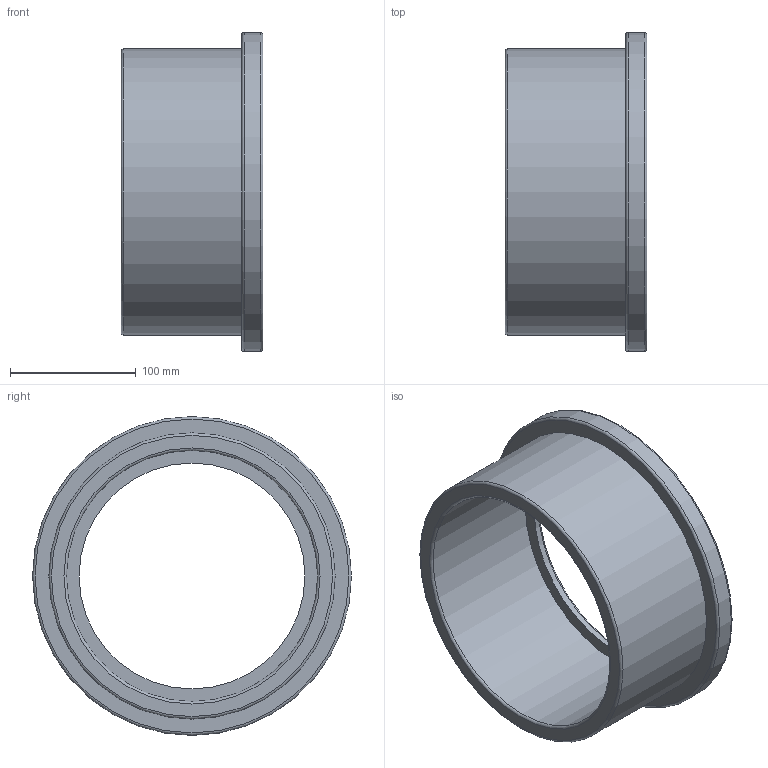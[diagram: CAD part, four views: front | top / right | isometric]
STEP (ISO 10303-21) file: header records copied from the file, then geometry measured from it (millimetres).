
FILE_DESCRIPTION(/* description */ ('PLASSON FLANGE FLAT AD.-CEM 200'),/* implementation_level */ '2;1');
FILE_NAME(/* name */ 'C:\Dropbox\KIMPROJECTS-Inventor\99-16-3568-Processing\PVC Catalog 2017\26_09_18\055100\055100200.ipt.stp',/* time_stamp */ '2018-09-27T11:51:02+03:00',/* author */ ('KIM'),/* organization */ (''),/* preprocessor_version */ 'ST-DEVELOPER v15.6',/* originating_system */ 'Autodesk Inventor 2015',/* authorisation */ '');
FILE_SCHEMA (('AUTOMOTIVE_DESIGN { 1 0 10303 214 3 1 1 }'));
Length unit declared in the file: millimetre
Products named in the file (1): 055100200
Bounding box: 113 x 254 x 254 mm (x, y, z)
Volume: 1269680.3 mm3; surface area: 200325.1 mm2
Topology: 1 solids, 1 shells, 13 faces, 22 edges, 13 vertices
Faces by surface type: torus 5, cylinder 4, plane 4
Full cylindrical faces by diameter (mm): 180 x1, 200 x1, 228 x1, 254 x1
Entity records: 292 total; most frequent: DIRECTION 54, CARTESIAN_POINT 40, AXIS2_PLACEMENT_3D 27, EDGE_LOOP 26, ORIENTED_EDGE 26, FACE_BOUND 13, FACE_OUTER_BOUND 13, CIRCLE 13
